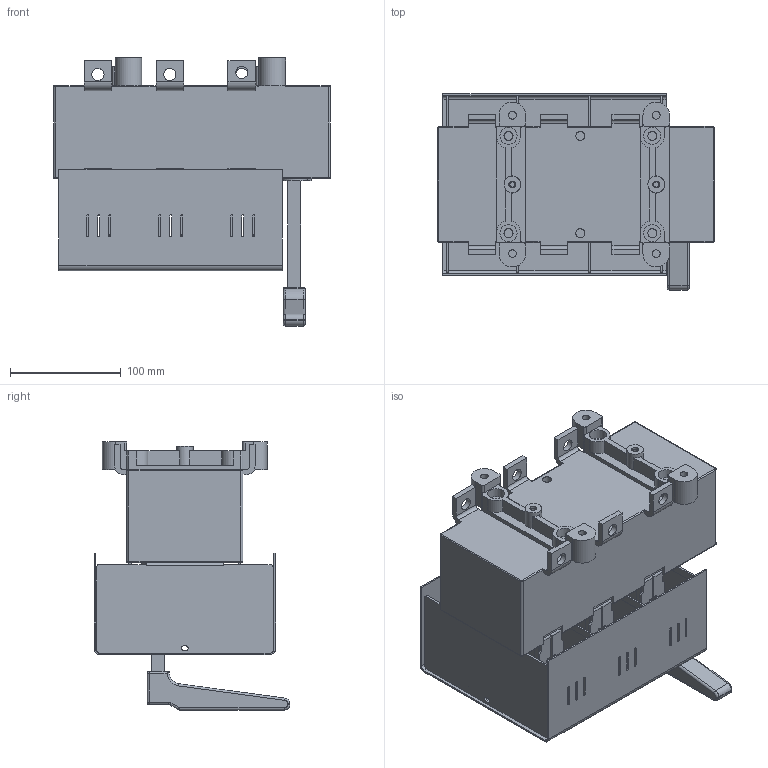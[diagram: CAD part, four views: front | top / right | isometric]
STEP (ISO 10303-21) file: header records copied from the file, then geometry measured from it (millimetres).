
FILE_DESCRIPTION(/* description */ (''),/* implementation_level */ '2;1');
FILE_NAME(/* name */ 'RAB 2 P3 C-R.stp',/* time_stamp */ '2021-08-19T14:25:11+02:00',/* author */ (''),/* organization */ (''),/* preprocessor_version */ 'ST-DEVELOPER v18.1',/* originating_system */ 'SIEMENS PLM Software NX 1965',/* authorisation */ '');
FILE_SCHEMA (('AUTOMOTIVE_DESIGN { 1 0 10303 214 3 1 1 1 }'));
Length unit declared in the file: millimetre
Products named in the file (1): RAB 2 P3 C-R_stp
Bounding box: 250 x 177 x 242.3 mm (x, y, z)
Volume: 2493729.1 mm3; surface area: 447171.5 mm2
Topology: 1 solids, 7 shells, 1170 faces, 3173 edges, 2044 vertices
Faces by surface type: plane 739, cylinder 409, torus 13, sphere 6, bspline 3
Full cylindrical faces by diameter (mm): 4.8 x2, 5.2 x18, 6.2 x2, 7 x4, 8.2 x6, 11 x6, 14 x4, 15 x2, 15.5 x4
Entity records: 36694 total; most frequent: CARTESIAN_POINT 6477, DIRECTION 6281, ORIENTED_EDGE 6230, EDGE_CURVE 3115, LINE 2257, VECTOR 2257, VERTEX_POINT 2040, AXIS2_PLACEMENT_3D 2012
